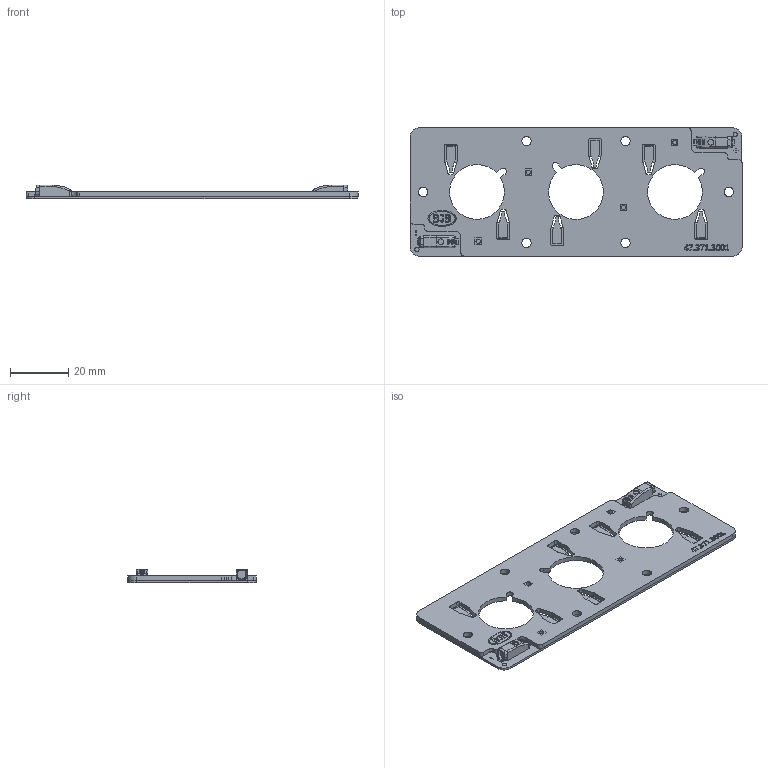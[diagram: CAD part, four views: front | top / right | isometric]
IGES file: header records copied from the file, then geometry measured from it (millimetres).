
Global section: file name: C:\CoreTechnologie\3D-in\020YV0BY03.igs; native system: CT CoreTechnologie 3D Evolution; preprocessor: 2006; date: 1180030.092817; units: millimetre
Bounding box: 114.01 x 44.01 x 4.7 mm (x, y, z)
Volume: 8732.9 mm3; surface area: 16192.4 mm2
Topology: 4 solids, 4 shells, 1135 faces, 3115 edges, 2082 vertices
Faces by surface type: plane 640, revolution 366, bspline 129
